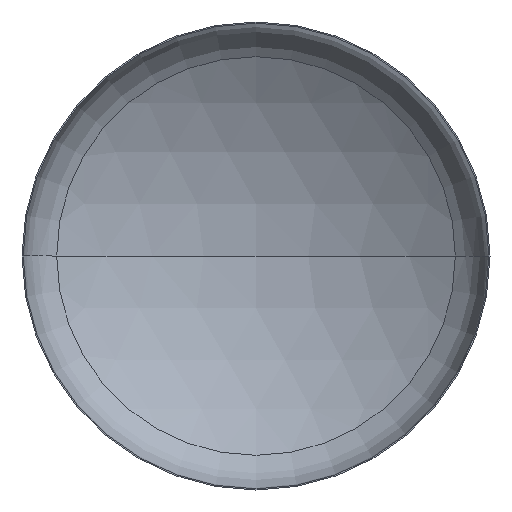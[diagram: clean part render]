
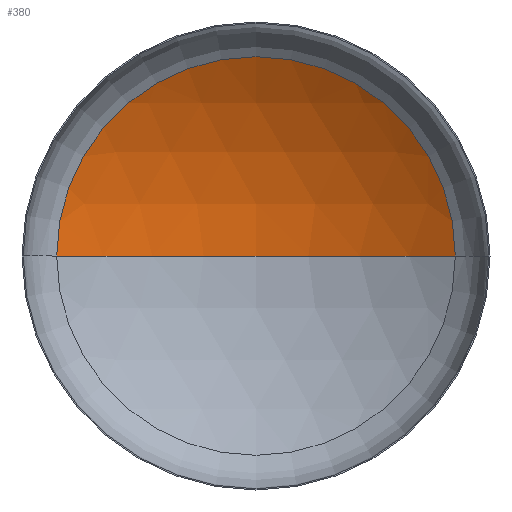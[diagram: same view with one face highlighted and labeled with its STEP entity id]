
A CAD part, front view. The second image highlights one B-rep face of the part: STEP entity #380.
In plain terms, the highlighted spherical face has radius 1280 mm.
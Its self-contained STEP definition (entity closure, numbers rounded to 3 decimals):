
#1 = VERTEX_POINT ( 'NONE', #235 ) ;
#2 = CARTESIAN_POINT ( 'NONE',  ( 0., 227.396, 0. ) ) ;
#12 = CARTESIAN_POINT ( 'NONE',  ( 0., -856.142, 0. ) ) ;
#16 = EDGE_LOOP ( 'NONE', ( #115, #94, #47 ) ) ;
#25 = SPHERICAL_SURFACE ( 'NONE', #291, 1280. ) ;
#47 = ORIENTED_EDGE ( 'NONE', *, *, #203, .T. ) ;
#73 = VERTEX_POINT ( 'NONE', #277 ) ;
#84 = CARTESIAN_POINT ( 'NONE',  ( 0., -856.142, 0. ) ) ;
#94 = ORIENTED_EDGE ( 'NONE', *, *, #210, .T. ) ;
#113 = VERTEX_POINT ( 'NONE', #331 ) ;
#115 = ORIENTED_EDGE ( 'NONE', *, *, #215, .F. ) ;
#122 = AXIS2_PLACEMENT_3D ( 'NONE', #189, #212, #205 ) ;
#125 = DIRECTION ( 'NONE',  ( 0., 0., -1. ) ) ;
#128 = AXIS2_PLACEMENT_3D ( 'NONE', #12, #242, #400 ) ;
#132 = AXIS2_PLACEMENT_3D ( 'NONE', #2, #207, #276 ) ;
#189 = CARTESIAN_POINT ( 'NONE',  ( 0., -856.142, 0. ) ) ;
#203 = EDGE_CURVE ( 'NONE', #113, #1, #285, .T. ) ;
#205 = DIRECTION ( 'NONE',  ( 1., 0., 0. ) ) ;
#207 = DIRECTION ( 'NONE',  ( 0., -1., 0. ) ) ;
#210 = EDGE_CURVE ( 'NONE', #73, #113, #225, .T. ) ;
#212 = DIRECTION ( 'NONE',  ( 0., 0., 1. ) ) ;
#215 = EDGE_CURVE ( 'NONE', #73, #1, #217, .T. ) ;
#217 = CIRCLE ( 'NONE', #122, 1280. ) ;
#225 = CIRCLE ( 'NONE', #128, 1280. ) ;
#235 = CARTESIAN_POINT ( 'NONE',  ( -681.43, 227.396, 0. ) ) ;
#242 = DIRECTION ( 'NONE',  ( 0., 0., -1. ) ) ;
#276 = DIRECTION ( 'NONE',  ( 1., 0., 0. ) ) ;
#277 = CARTESIAN_POINT ( 'NONE',  ( 0., 423.858, 0. ) ) ;
#285 = CIRCLE ( 'NONE', #132, 681.43 ) ;
#291 = AXIS2_PLACEMENT_3D ( 'NONE', #84, #125, #408 ) ;
#308 = FACE_OUTER_BOUND ( 'NONE', #16, .T. ) ;
#331 = CARTESIAN_POINT ( 'NONE',  ( 681.43, 227.396, 0. ) ) ;
#380 = ADVANCED_FACE ( 'NONE', ( #308 ), #25, .F. ) ;
#400 = DIRECTION ( 'NONE',  ( -1., 0., 0. ) ) ;
#408 = DIRECTION ( 'NONE',  ( -1., 0., 0. ) ) ;
